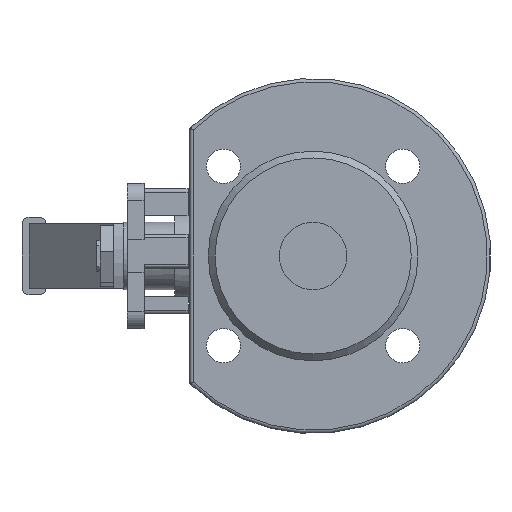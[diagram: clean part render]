
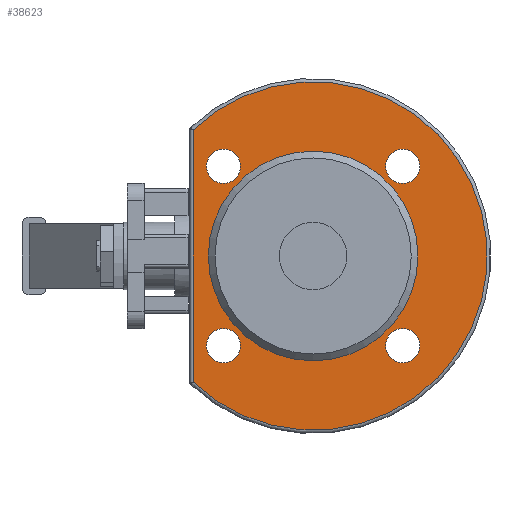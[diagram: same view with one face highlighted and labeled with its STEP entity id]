
A CAD part, left-side view. The second image highlights one B-rep face of the part: STEP entity #38623.
In plain terms, the highlighted planar face has unit normal (-1, 0, 0).
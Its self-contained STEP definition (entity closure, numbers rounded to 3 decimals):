
#38379=CARTESIAN_POINT('',(-20.,35.5,37.31));
#38380=VERTEX_POINT('',#38379);
#38396=CARTESIAN_POINT('',(-20.,35.5,-37.31));
#38397=VERTEX_POINT('',#38396);
#38405=CARTESIAN_POINT('',(-20.,35.5,-37.31));
#38406=DIRECTION('',(0.0,0.0,1.0));
#38407=VECTOR('',#38406,74.619);
#38408=LINE('',#38405,#38407);
#38409=EDGE_CURVE('',#38397,#38380,#38408,.T.);
#38553=CARTESIAN_POINT('',(-20.,41.75,0.0));
#38554=DIRECTION('',(-1.0,0.0,0.0));
#38555=DIRECTION('',(0.0,0.0,1.0));
#38556=AXIS2_PLACEMENT_3D('',#38553,#38554,#38555);
#38557=PLANE('',#38556);
#38558=ORIENTED_EDGE('',*,*,#38409,.F.);
#38559=CARTESIAN_POINT('',(-20.,0.0,0.0));
#38560=DIRECTION('',(1.0,0.0,0.0));
#38561=DIRECTION('',(0.0,-1.0,0.0));
#38562=AXIS2_PLACEMENT_3D('',#38559,#38560,#38561);
#38563=CIRCLE('',#38562,51.5);
#38564=EDGE_CURVE('',#38380,#38397,#38563,.T.);
#38565=ORIENTED_EDGE('',*,*,#38564,.F.);
#38566=EDGE_LOOP('',(#38558,#38565));
#38567=FACE_OUTER_BOUND('',#38566,.T.);
#38568=CARTESIAN_POINT('',(-20.,31.0,0.0));
#38569=VERTEX_POINT('',#38568);
#38570=CARTESIAN_POINT('',(-20.,0.0,0.0));
#38571=DIRECTION('',(1.0,0.0,0.0));
#38572=DIRECTION('',(0.0,1.0,0.0));
#38573=AXIS2_PLACEMENT_3D('',#38570,#38571,#38572);
#38574=CIRCLE('',#38573,31.0);
#38575=EDGE_CURVE('',#38569,#38569,#38574,.T.);
#38576=ORIENTED_EDGE('',*,*,#38575,.T.);
#38577=EDGE_LOOP('',(#38576));
#38578=FACE_BOUND('',#38577,.T.);
#38579=CARTESIAN_POINT('',(-20.,26.517,31.57));
#38580=VERTEX_POINT('',#38579);
#38581=CARTESIAN_POINT('',(-20.,26.517,26.517));
#38582=DIRECTION('',(1.0,0.0,0.0));
#38583=DIRECTION('',(0.0,0.0,1.0));
#38584=AXIS2_PLACEMENT_3D('',#38581,#38582,#38583);
#38585=CIRCLE('',#38584,5.053);
#38586=EDGE_CURVE('',#38580,#38580,#38585,.T.);
#38587=ORIENTED_EDGE('',*,*,#38586,.T.);
#38588=EDGE_LOOP('',(#38587));
#38589=FACE_BOUND('',#38588,.T.);
#38590=CARTESIAN_POINT('',(-20.,26.517,-21.464));
#38591=VERTEX_POINT('',#38590);
#38592=CARTESIAN_POINT('',(-20.,26.517,-26.517));
#38593=DIRECTION('',(1.0,0.0,0.0));
#38594=DIRECTION('',(0.0,0.0,1.0));
#38595=AXIS2_PLACEMENT_3D('',#38592,#38593,#38594);
#38596=CIRCLE('',#38595,5.053);
#38597=EDGE_CURVE('',#38591,#38591,#38596,.T.);
#38598=ORIENTED_EDGE('',*,*,#38597,.T.);
#38599=EDGE_LOOP('',(#38598));
#38600=FACE_BOUND('',#38599,.T.);
#38601=CARTESIAN_POINT('',(-20.,-26.517,-21.464));
#38602=VERTEX_POINT('',#38601);
#38603=CARTESIAN_POINT('',(-20.,-26.517,-26.517));
#38604=DIRECTION('',(1.0,0.0,0.0));
#38605=DIRECTION('',(0.0,0.0,1.0));
#38606=AXIS2_PLACEMENT_3D('',#38603,#38604,#38605);
#38607=CIRCLE('',#38606,5.053);
#38608=EDGE_CURVE('',#38602,#38602,#38607,.T.);
#38609=ORIENTED_EDGE('',*,*,#38608,.T.);
#38610=EDGE_LOOP('',(#38609));
#38611=FACE_BOUND('',#38610,.T.);
#38612=CARTESIAN_POINT('',(-20.,-26.517,31.57));
#38613=VERTEX_POINT('',#38612);
#38614=CARTESIAN_POINT('',(-20.,-26.517,26.517));
#38615=DIRECTION('',(1.0,0.0,0.0));
#38616=DIRECTION('',(0.0,0.0,1.0));
#38617=AXIS2_PLACEMENT_3D('',#38614,#38615,#38616);
#38618=CIRCLE('',#38617,5.053);
#38619=EDGE_CURVE('',#38613,#38613,#38618,.T.);
#38620=ORIENTED_EDGE('',*,*,#38619,.T.);
#38621=EDGE_LOOP('',(#38620));
#38622=FACE_BOUND('',#38621,.T.);
#38623=ADVANCED_FACE('',(#38567,#38578,#38589,#38600,#38611,#38622),#38557,.T.);
